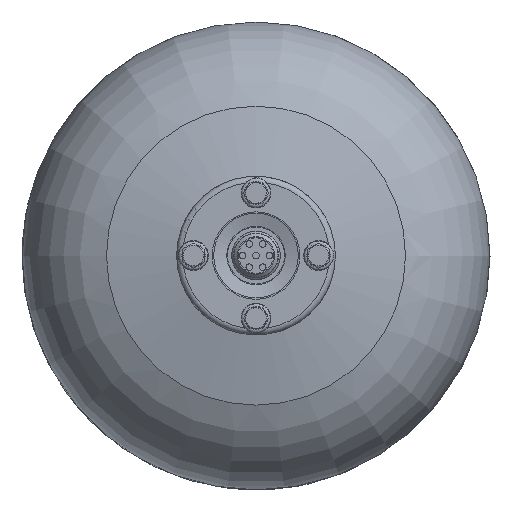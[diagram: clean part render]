
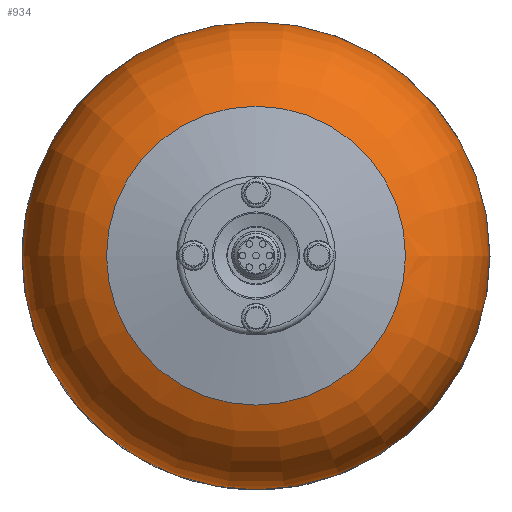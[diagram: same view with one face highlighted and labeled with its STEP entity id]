
A CAD part, top view. The second image highlights one B-rep face of the part: STEP entity #934.
In plain terms, the highlighted toroidal (fillet/blend) face has major radius 70 mm and minor radius 70 mm.
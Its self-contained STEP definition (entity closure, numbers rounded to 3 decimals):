
#934=ADVANCED_FACE('',(#3607,#3609),#3611,.T.);
#3607=FACE_BOUND('',#3608,.T.);
#3608=EDGE_LOOP('',(#5892,#5893,#5894));
#3609=FACE_BOUND('',#3610,.T.);
#3610=EDGE_LOOP('',(#5895,#5896));
#3611=DEGENERATE_TOROIDAL_SURFACE('',#3612,70.,70.,.T.);
#3612=AXIS2_PLACEMENT_3D('',#3613,#3614,#3615);
#3613=CARTESIAN_POINT('',(0.,0.,42.896));
#3614=DIRECTION('',(0.,0.,1.));
#3615=DIRECTION('',(1.,0.,0.));
#5892=ORIENTED_EDGE('',*,*,#6985,.T.);
#5893=ORIENTED_EDGE('',*,*,#6986,.T.);
#5894=ORIENTED_EDGE('',*,*,#6987,.T.);
#5895=ORIENTED_EDGE('',*,*,#6910,.F.);
#5896=ORIENTED_EDGE('',*,*,#6909,.F.);
#6909=EDGE_CURVE('',#7525,#7526,#7527,.T.);
#6910=EDGE_CURVE('',#7526,#7525,#7528,.T.);
#6985=EDGE_CURVE('',#7629,#7630,#7631,.T.);
#6986=EDGE_CURVE('',#7630,#7632,#7633,.T.);
#6987=EDGE_CURVE('',#7632,#7629,#7634,.T.);
#7525=VERTEX_POINT('',#9210);
#7526=VERTEX_POINT('',#9211);
#7527=CIRCLE('',#9212,89.6);
#7528=CIRCLE('',#9216,89.6);
#7629=VERTEX_POINT('',#9470);
#7630=VERTEX_POINT('',#9471);
#7631=CIRCLE('',#9472,140.);
#7632=VERTEX_POINT('',#9476);
#7633=CIRCLE('',#9477,140.);
#7634=CIRCLE('',#9481,140.);
#9210=CARTESIAN_POINT('',(89.6,0.,110.096));
#9211=CARTESIAN_POINT('',(-89.6,0.,110.096));
#9212=AXIS2_PLACEMENT_3D('',#9213,#9214,#9215);
#9213=CARTESIAN_POINT('',(0.,0.,110.096));
#9214=DIRECTION('',(0.,0.,1.));
#9215=DIRECTION('',(1.,0.,0.));
#9216=AXIS2_PLACEMENT_3D('',#9217,#9218,#9219);
#9217=CARTESIAN_POINT('',(0.,0.,110.096));
#9218=DIRECTION('',(0.,0.,1.));
#9219=DIRECTION('',(-1.,0.,0.));
#9470=CARTESIAN_POINT('',(140.,0.,42.896));
#9471=CARTESIAN_POINT('',(0.,140.,42.896));
#9472=AXIS2_PLACEMENT_3D('',#9473,#9474,#9475);
#9473=CARTESIAN_POINT('',(0.,0.,42.896));
#9474=DIRECTION('',(0.,0.,1.));
#9475=DIRECTION('',(1.,0.,0.));
#9476=CARTESIAN_POINT('',(-140.,0.,42.896));
#9477=AXIS2_PLACEMENT_3D('',#9478,#9479,#9480);
#9478=CARTESIAN_POINT('',(0.,0.,42.896));
#9479=DIRECTION('',(0.,0.,1.));
#9480=DIRECTION('',(0.,1.,0.));
#9481=AXIS2_PLACEMENT_3D('',#9482,#9483,#9484);
#9482=CARTESIAN_POINT('',(0.,0.,42.896));
#9483=DIRECTION('',(0.,0.,1.));
#9484=DIRECTION('',(-1.,0.,0.));
